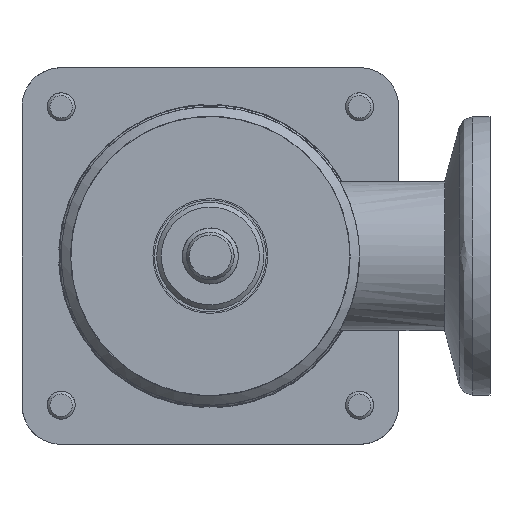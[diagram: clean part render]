
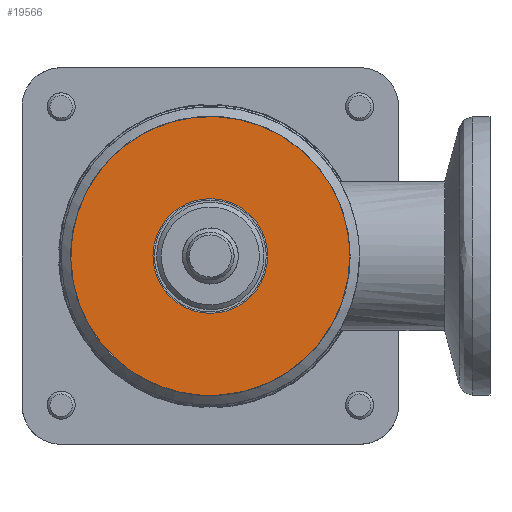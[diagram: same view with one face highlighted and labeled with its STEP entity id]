
A CAD part, front view. The second image highlights one B-rep face of the part: STEP entity #19566.
In plain terms, the highlighted free-form (B-spline) face has degree [1, 1] with [2, 2] control points.
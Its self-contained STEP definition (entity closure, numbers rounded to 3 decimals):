
#19508=CARTESIAN_POINT('V24',(0.,6.15,0.0)
   );
#19509=VERTEX_POINT('V24',#19508);
#19515=CARTESIAN_POINT('E39',(0.,6.15,0.0)
   );
#19516=CARTESIAN_POINT('E39',(0.,6.15,
   10.652));
#19517=CARTESIAN_POINT('E39',(0.,-3.075,
   5.326));
#19518=CARTESIAN_POINT('E39',(0.,-12.3,
   0.));
#19519=CARTESIAN_POINT('E39',(0.,-3.075,
   -5.326));
#19520=CARTESIAN_POINT('E39',(0.,6.15,
   -10.652));
#19521=CARTESIAN_POINT('E39',(0.,6.15,0.0)
   );
#19529=(BOUNDED_CURVE()B_SPLINE_CURVE(2,(#19515,#19516,#19517,
   #19518,#19519,#19520,#19521),.CIRCULAR_ARC.,.T.,.U.)
   B_SPLINE_CURVE_WITH_KNOTS((3,2,2,3),(0.0,0.333,
   0.667,1.0),.UNSPECIFIED.)CURVE()
   GEOMETRIC_REPRESENTATION_ITEM()RATIONAL_B_SPLINE_CURVE((1.0,
   0.5,1.0,0.5,1.0,0.5,1.0)
   )REPRESENTATION_ITEM('E39'));
#19530=EDGE_CURVE('E39',#19509,#19509,#19529,.T.);
#19537=CARTESIAN_POINT('F22',(0.,-16.456,
   16.456));
#19538=CARTESIAN_POINT('F22',(0.,16.456,
   16.456));
#19539=CARTESIAN_POINT('F22',(0.,-16.456,
   -16.456));
#19540=CARTESIAN_POINT('F22',(0.,16.456,
   -16.456));
#19541=QUASI_UNIFORM_SURFACE('F22',1,1,((#19537,#19539),(#19538,
   #19540)),.PLANE_SURF.,.F.,.F.,.U.);
#19542=CARTESIAN_POINT('V25',(0.,14.96,0.0)
   );
#19543=VERTEX_POINT('V25',#19542);
#19544=CARTESIAN_POINT('E40',(0.,14.96,0.0)
   );
#19545=CARTESIAN_POINT('E40',(0.,14.96,
   25.911));
#19546=CARTESIAN_POINT('E40',(0.,-7.48,
   12.956));
#19547=CARTESIAN_POINT('E40',(0.,-29.92,
   0.));
#19548=CARTESIAN_POINT('E40',(0.,-7.48,
   -12.956));
#19549=CARTESIAN_POINT('E40',(0.,14.96,
   -25.911));
#19550=CARTESIAN_POINT('E40',(0.,14.96,0.0)
   );
#19558=(BOUNDED_CURVE()B_SPLINE_CURVE(2,(#19544,#19545,#19546,
   #19547,#19548,#19549,#19550),.CIRCULAR_ARC.,.T.,.U.)
   B_SPLINE_CURVE_WITH_KNOTS((3,2,2,3),(0.0,28.027,
   56.055,84.082),.UNSPECIFIED.)CURVE()
   GEOMETRIC_REPRESENTATION_ITEM()RATIONAL_B_SPLINE_CURVE((1.0,
   0.5,1.0,0.5,1.0,0.5,1.0)
   )REPRESENTATION_ITEM('E40'));
#19559=EDGE_CURVE('E40',#19543,#19543,#19558,.T.);
#19560=ORIENTED_EDGE('E40',*,*,#19559,.T.);
#19561=EDGE_LOOP('F22',(#19560));
#19562=FACE_OUTER_BOUND('F22',#19561,.F.);
#19563=ORIENTED_EDGE('E39',*,*,#19530,.F.);
#19564=EDGE_LOOP('F22',(#19563));
#19565=FACE_BOUND('F22',#19564,.F.);
#19566=ADVANCED_FACE('F22',(#19562,#19565),#19541,.T.);
